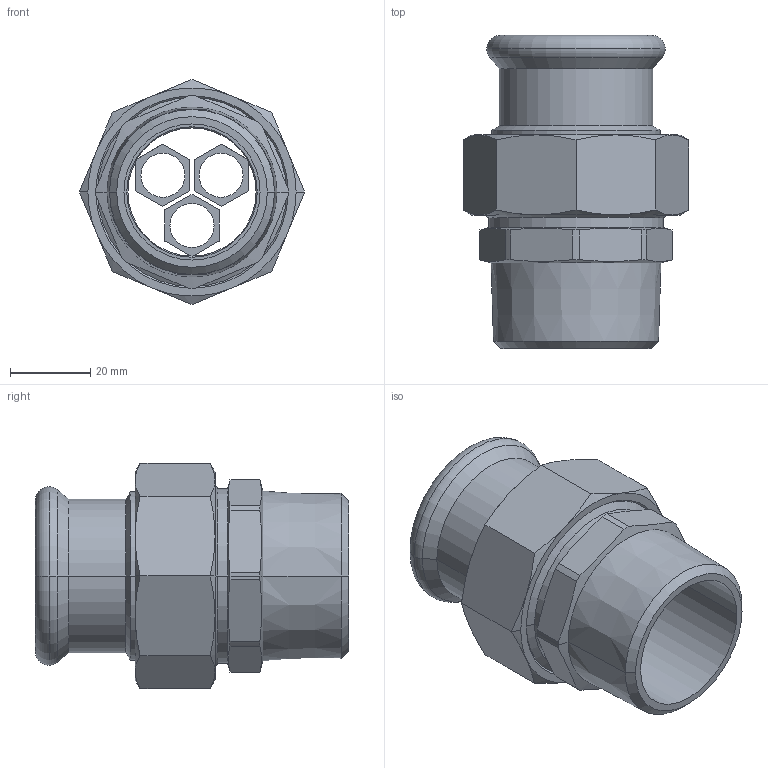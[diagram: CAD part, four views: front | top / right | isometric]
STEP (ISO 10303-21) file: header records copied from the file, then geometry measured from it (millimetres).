
FILE_DESCRIPTION(('OneSpaceDesigner STEP Export'),'2;1');
FILE_NAME('R2735 35xRp1 1-4.stp','2010-06-10T13:54:35',(''),(''),'OneSpace Designer STEP processor for AP214 (Solid Model)','OneSpace Modeling 15.00A 14-Mar-2007 (C) CoCreate Software GmbH','');
FILE_SCHEMA(('AUTOMOTIVE_DESIGN { 1 0 10303 214 1 1 1 1 }'));
Length unit declared in the file: millimetre
Products named in the file (2): R2735_35xRp1_1-4
Assembly tree (1 placements, depth 2):
  R2735_35xRp1_1-4
    R2735_35xRp1_1-4
Bounding box: 56.28 x 78.2 x 56.28 mm (x, y, z)
Volume: 50092 mm3; surface area: 26813.4 mm2
Topology: 1 solids, 1 shells, 145 faces, 339 edges, 204 vertices
Faces by surface type: plane 50, cone 48, cylinder 39, torus 8
Entity records: 5457 total; most frequent: CARTESIAN_POINT 2571, ORIENTED_EDGE 678, DIRECTION 453, EDGE_CURVE 339, VERTEX_POINT 204, EDGE_LOOP 161, VECTOR 153, LINE 153
